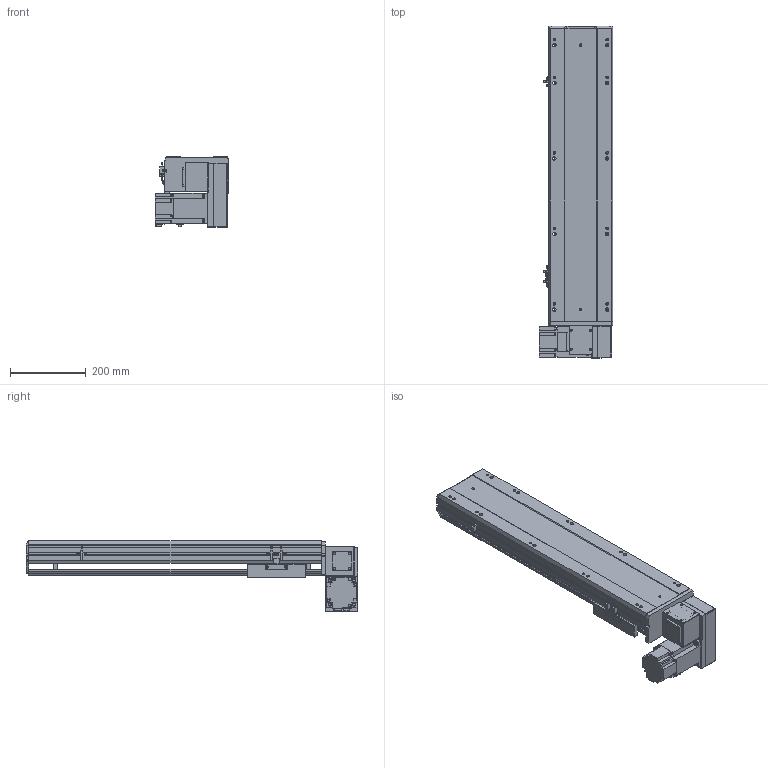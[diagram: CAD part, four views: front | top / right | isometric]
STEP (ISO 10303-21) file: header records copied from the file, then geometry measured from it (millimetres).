
FILE_DESCRIPTION (( 'STEP AP203' ), '1' );
FILE_NAME ('BTB17-L50-500-LU-T75-C4.STEP', '2022-07-26T02:09:12', ( 'CXY' ), ( 'BT' ), 'SwSTEP 2.0', 'SolidWorks 2016', '' );
FILE_SCHEMA (( 'CONFIG_CONTROL_DESIGN' ));
Length unit declared in the file: millimetre
Products named in the file (10): BTB17-L-HZ; BTB17-L-24; BTB17-L-01; T75; BTB17-L-04; BTB17-L-23; BTB17-L-02; BTB17-L-06; BTB17-L50-500-LU-T75-C4; BTB17-L-菁釱_XD
Assembly tree (12 placements, depth 2):
  BTB17-L50-500-LU-T75-C4
    BTB17-L-菁釱_XD
    BTB17-L-01
    BTB17-L-04  x3
    BTB17-L-06
    BTB17-L-23  x2
    BTB17-L-24
    BTB17-L-HZ
    BTB17-L-02
    T75
Bounding box: 195.3 x 879 x 186.5 mm (x, y, z)
Volume: 8177214.9 mm3; surface area: 1173168.1 mm2
Topology: 22 solids, 22 shells, 1552 faces, 4089 edges, 2590 vertices
Faces by surface type: plane 864, cylinder 516, cone 136, bspline 20, torus 16
Entity records: 39593 total; most frequent: CARTESIAN_POINT 7448, DIRECTION 6571, ORIENTED_EDGE 6354, EDGE_CURVE 3177, AXIS2_PLACEMENT_3D 2237, VECTOR 2097, LINE 2097, VERTEX_POINT 2058
